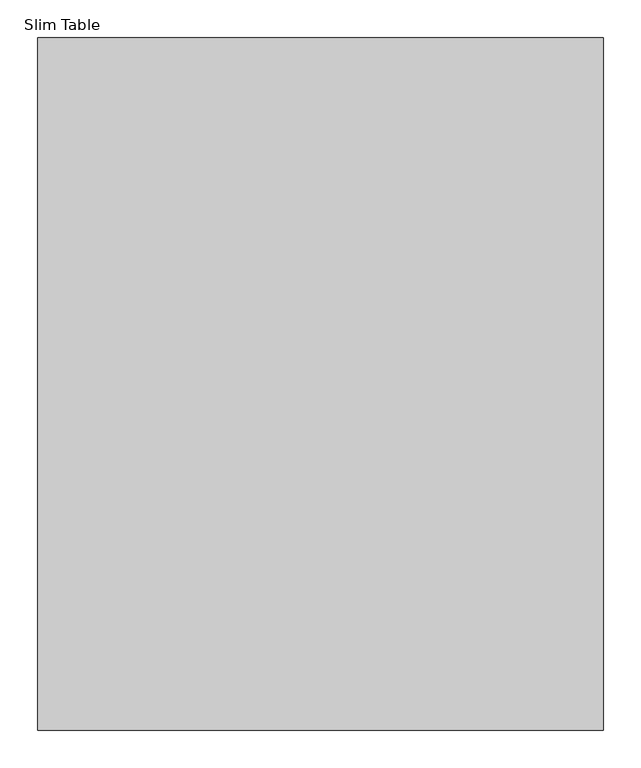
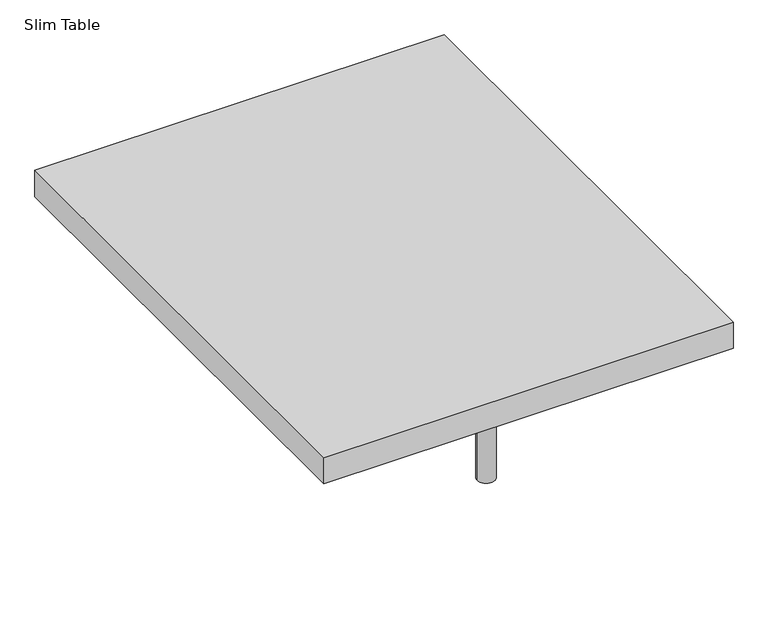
"""IFC4 building model written with IfcOpenShell, lengths in millimetres: furniture geometry, Coalesse_AM_Seating_LoungeChair_Sistema_LegBase_OneSeatConnector : Slim Table."""

import ifcopenshell
import ifcopenshell.guid

model = None  # the IFC model being written
_history = None  # IfcOwnerHistory: only IFC2X3 demands one
_inside = {}  # id of a spatial element -> (the spatial element, [elements in it])
_under = {}  # id of a project, library or spatial element -> (it, [spatial elements below it])
_declared = {}  # id of a project -> (the project, [libraries it declares])
_typed = {}  # id of a type object -> (the type object, [elements of that type])
_made_of = {}  # id of a material, layer set ... -> (it, [elements and type objects made of it])


def new_model(schema):
    """Start an empty IFC model of exactly this schema.

    Asked for "IFC4X3", IfcOpenShell would pick the latest addendum, in which some entities
    have other attributes; the version numbers below select the first issue.
    IFC2X3 requires an IfcOwnerHistory on every rooted entity: one is made here for all.
    """
    global model, _history
    if schema == "IFC4X3":
        model = ifcopenshell.file(schema_version=(4, 3, 0, 0))
    else:
        model = ifcopenshell.file(schema=schema)
    _inside.clear()
    _under.clear()
    _declared.clear()
    _typed.clear()
    _made_of.clear()
    _history = None
    if model.schema == "IFC2X3":
        org = make("IfcOrganization", Name="unknown")
        user = make(
            "IfcPersonAndOrganization",
            ThePerson=make("IfcPerson", FamilyName="unknown"),
            TheOrganization=org,
        )
        app = make(
            "IfcApplication",
            ApplicationDeveloper=org,
            Version="unknown",
            ApplicationFullName="unknown",
            ApplicationIdentifier="unknown",
        )
        _history = make(
            "IfcOwnerHistory",
            OwningUser=user,
            OwningApplication=app,
            ChangeAction="ADDED",
            CreationDate=0,
        )
    return model


def make(cls, **values):
    """One entity of the class cls with the attributes given. An attribute that is None is left unset."""
    return model.create_entity(
        cls, **{name: value for name, value in values.items() if value is not None}
    )


def rooted(cls, **values):
    """An entity with a GlobalId (a new one), such as an element, a storey or a relation."""
    return make(cls, GlobalId=ifcopenshell.guid.new(), OwnerHistory=_history, **values)


def si_unit(unit_type, name, prefix=None):
    """IfcSIUnit, for example si_unit("LENGTHUNIT", "METRE", prefix="MILLI")."""
    return make("IfcSIUnit", UnitType=unit_type, Prefix=prefix, Name=name)


def assignment(units):
    """IfcUnitAssignment: the units of a project."""
    return None if units is None else make("IfcUnitAssignment", Units=units)


def point(xyz):
    """IfcCartesianPoint."""
    return None if xyz is None else make("IfcCartesianPoint", Coordinates=xyz)


def direction(xyz):
    """IfcDirection."""
    return None if xyz is None else make("IfcDirection", DirectionRatios=xyz)


def frame(location, z_axis=None, x_axis=None):
    """IfcAxis2Placement3D, a coordinate frame: its origin and axes. An axis left out is left unset."""
    return make(
        "IfcAxis2Placement3D",
        Location=point(location),
        Axis=direction(z_axis),
        RefDirection=direction(x_axis),
    )


def frame_2d(location, x_axis=None):
    """IfcAxis2Placement2D, a coordinate frame in the plane: its origin and x axis."""
    return make(
        "IfcAxis2Placement2D", Location=point(location), RefDirection=direction(x_axis)
    )


def origin():
    """The frame at (0, 0, 0) with its axes left unset."""
    return frame((0.0, 0.0, 0.0))


def origin_with_axes():
    """The frame at (0, 0, 0) with the z axis (0, 0, 1) and the x axis (1, 0, 0) written out."""
    return frame((0.0, 0.0, 0.0), z_axis=(0.0, 0.0, 1.0), x_axis=(1.0, 0.0, 0.0))


def place(relative_to, where):
    """IfcLocalPlacement: puts the frame where relative to a parent placement (None: the world)."""
    return make(
        "IfcLocalPlacement", PlacementRelTo=relative_to, RelativePlacement=where
    )


def context(
    kind, dimensions, precision=None, world=None, true_north=None, identifier=None
):
    """IfcGeometricRepresentationContext, for example the 3D "Model" context."""
    return make(
        "IfcGeometricRepresentationContext",
        ContextIdentifier=identifier,
        ContextType=kind,
        CoordinateSpaceDimension=dimensions,
        Precision=precision,
        WorldCoordinateSystem=world,
        TrueNorth=true_north,
    )


def project(units=None, contexts=None):
    """IfcProject with its units and contexts."""
    return rooted(
        "IfcProject",
        Name="project",
        RepresentationContexts=contexts,
        UnitsInContext=assignment(units),
    )


def spatial(cls, under=None, at=None, **own):
    """A site, building, storey or space (cls), placed at a placement, below another one or the project."""
    s = rooted(cls, ObjectPlacement=at, **own)
    if under is not None:
        _under.setdefault(under.id(), (under, []))[1].append(s)
    return s


def polyline(points):
    """IfcPolyline through the points."""
    return make("IfcPolyline", Points=[point(p) for p in points])


def circle_curve(where, radius):
    """IfcCircle in the frame where."""
    return make("IfcCircle", Position=where, Radius=radius)


def trimmed(basis, trim1, trim2, sense, master):
    """IfcTrimmedCurve: the piece of a basis curve between two trims."""
    return make(
        "IfcTrimmedCurve",
        BasisCurve=basis,
        Trim1=trim1,
        Trim2=trim2,
        SenseAgreement=sense,
        MasterRepresentation=master,
    )


def segment(curve, same_sense, transition):
    """IfcCompositeCurveSegment."""
    return make(
        "IfcCompositeCurveSegment",
        Transition=transition,
        SameSense=same_sense,
        ParentCurve=curve,
    )


def composite_curve(segments, self_intersect=None):
    """IfcCompositeCurve: segments joined end to end."""
    return make("IfcCompositeCurve", Segments=segments, SelfIntersect=self_intersect)


def outline(outer, holes=None, kind="AREA"):
    """IfcArbitraryClosedProfileDef: a profile drawn as a closed curve; with holes, ...WithVoids."""
    if holes is None:
        return make("IfcArbitraryClosedProfileDef", ProfileType=kind, OuterCurve=outer)
    return make(
        "IfcArbitraryProfileDefWithVoids",
        ProfileType=kind,
        OuterCurve=outer,
        InnerCurves=holes,
    )


def extrude(swept, where, along, depth):
    """IfcExtrudedAreaSolid: the profile swept, set in the frame where, extruded along a direction by depth."""
    return make(
        "IfcExtrudedAreaSolid",
        SweptArea=swept,
        Position=where,
        ExtrudedDirection=direction(along),
        Depth=depth,
    )


def shape(context_of_items, identifier, shape_type, items):
    """IfcShapeRepresentation: the items that make up one representation, for example the "Body"."""
    return make(
        "IfcShapeRepresentation",
        ContextOfItems=context_of_items,
        RepresentationIdentifier=identifier,
        RepresentationType=shape_type,
        Items=items,
    )


def source(mapping_origin, context_of_items, identifier, shape_type, items):
    """IfcRepresentationMap: a shape defined once, which mapped items show again and again."""
    return make(
        "IfcRepresentationMap",
        MappingOrigin=mapping_origin,
        MappedRepresentation=shape(context_of_items, identifier, shape_type, items),
    )


def transform(
    local_origin,
    x_axis=None,
    y_axis=None,
    z_axis=None,
    scale=None,
    scale2=None,
    scale3=None,
    uniform=True,
):
    """IfcCartesianTransformationOperator3D, or its non-uniform kind. x_axis, y_axis, z_axis: its Axis1, 2, 3."""
    if uniform:
        return make(
            "IfcCartesianTransformationOperator3D",
            Axis1=direction(x_axis),
            Axis2=direction(y_axis),
            LocalOrigin=point(local_origin),
            Scale=scale,
            Axis3=direction(z_axis),
        )
    return make(
        "IfcCartesianTransformationOperator3DnonUniform",
        Axis1=direction(x_axis),
        Axis2=direction(y_axis),
        LocalOrigin=point(local_origin),
        Scale=scale,
        Axis3=direction(z_axis),
        Scale2=scale2,
        Scale3=scale3,
    )


def mapped(mapping_source, mapping_target):
    """IfcMappedItem: shows the shape of a source again, moved by a transform."""
    return make(
        "IfcMappedItem", MappingSource=mapping_source, MappingTarget=mapping_target
    )


def made_of(thing, what):
    """Note that an element or type object is made of a material, layer set ...; save() writes the relation."""
    if what is not None:
        _made_of.setdefault(what.id(), (what, []))[1].append(thing)
    return thing


def element(
    cls,
    number,
    at=None,
    inside=None,
    cuts=None,
    type_object=None,
    material=None,
    context=None,
    identifier="Body",
    shape_type=None,
    held_by="IfcProductDefinitionShape",
    body=None,
    shapes=None,
    **own,
):
    """One element of the class cls, such as IfcWall. Its Tag is "e" and its number.

    at: its placement. inside: the storey or other place that contains it. cuts: it is an
    opening in that element (IfcRelVoidsElement). A single representation is given by context,
    identifier, shape_type and body (its items); several are given by shapes. held_by: the class
    of the entity that holds the representations. save() writes the other relations.
    """
    e = rooted(cls, Tag="e%d" % number, ObjectPlacement=at, **own)
    if body is not None:
        shapes = [shape(context, identifier, shape_type, body)]
    if shapes is not None:
        e.Representation = make(held_by, Representations=shapes)
    if inside is not None:
        _inside.setdefault(inside.id(), (inside, []))[1].append(e)
    if cuts is not None:
        rooted(
            "IfcRelVoidsElement", RelatingBuildingElement=cuts, RelatedOpeningElement=e
        )
    if type_object is not None:
        _typed.setdefault(type_object.id(), (type_object, []))[1].append(e)
    return made_of(e, material)


def aggregate(whole, parts):
    """IfcRelAggregates: a whole, such as a stair, and the parts it consists of."""
    return rooted("IfcRelAggregates", RelatingObject=whole, RelatedObjects=parts)


def save(model, path):
    """Write the relations noted so far, then the file.

    IfcRelAggregates (storeys below a building ...), IfcRelContainedInSpatialStructure (elements
    in a storey), IfcRelDefinesByType, IfcRelAssociatesMaterial and IfcRelDeclares: one each for
    every whole, place, type object, material and project.
    """
    for whole, parts in _under.values():
        aggregate(whole, parts)
    for where, things in _inside.values():
        rooted(
            "IfcRelContainedInSpatialStructure",
            RelatedElements=things,
            RelatingStructure=where,
        )
    for kind, things in _typed.values():
        rooted("IfcRelDefinesByType", RelatedObjects=things, RelatingType=kind)
    for what, things in _made_of.values():
        rooted("IfcRelAssociatesMaterial", RelatedObjects=things, RelatingMaterial=what)
    for by, libraries in _declared.values():
        rooted("IfcRelDeclares", RelatingContext=by, RelatedDefinitions=libraries)
    model.write(path)


def slim_table_b8920834(model_context):
    return source(origin(), model_context, "Body", "SweptSolid", [
        extrude(outline(composite_curve([segment(trimmed(circle_curve(frame_2d((0.0, 335.9943389)), 6.096), [point((-6.096, 335.9943389))], [point((6.096, 335.9943389))], False, "CARTESIAN"), True, "CONTINUOUS"), segment(trimmed(circle_curve(frame_2d((0.0, 335.9943389)), 6.096), [point((6.096, 335.9943389))], [point((-6.096, 335.9943389))], False, "CARTESIAN"), True, "CONTINUOUS")], self_intersect=False)), origin_with_axes(), (0.0, 0.0, 1.0), 4.3662291),
        extrude(outline(composite_curve([segment(trimmed(circle_curve(frame_2d((0.0, -327.2630889)), 6.096), [point((-6.096, -327.2630889))], [point((6.096, -327.2630889))], False, "CARTESIAN"), True, "CONTINUOUS"), segment(trimmed(circle_curve(frame_2d((0.0, -327.2630889)), 6.096), [point((6.096, -327.2630889))], [point((-6.096, -327.2630889))], False, "CARTESIAN"), True, "CONTINUOUS")], self_intersect=False)), origin_with_axes(), (0.0, 0.0, 1.0), 4.3662291),
        extrude(outline(composite_curve([segment(trimmed(circle_curve(frame_2d((157.0399209, -9.5318523)), 3.048), [point((157.0399209, -12.5798523))], [point((153.9919209, -9.5318523))], False, "CARTESIAN"), True, "CONTINUOUS"), segment(polyline([(153.9919209, -9.5318523), (153.9919209, 9.7252509)]), True, "CONTINUOUS"), segment(trimmed(circle_curve(frame_2d((157.1249936, 9.7252509)), 3.1330728), [point((153.9919209, 9.7252509))], [point((157.1249936, 12.8583237))], False, "CARTESIAN"), True, "CONTINUOUS"), segment(polyline([(157.1249936, 12.8583237), (201.7356243, 12.8583237)]), True, "CONTINUOUS"), segment(trimmed(circle_curve(frame_2d((201.7356243, 9.8103237)), 3.048), [point((201.7356243, 12.8583237))], [point((204.7836243, 9.8103237))], False, "CARTESIAN"), True, "CONTINUOUS"), segment(polyline([(204.7836243, 9.8103237), (204.7836243, -9.5318523)]), True, "CONTINUOUS"), segment(trimmed(circle_curve(frame_2d((201.7356243, -9.5318523)), 3.048), [point((204.7836243, -9.5318523))], [point((201.7356243, -12.5798523))], False, "CARTESIAN"), True, "CONTINUOUS"), segment(polyline([(201.7356243, -12.5798523), (157.0399209, -12.5798523)]), True, "CONTINUOUS")], self_intersect=False)), frame((0.0, 222.3519802, 0.0), z_axis=(0.0, 1.0, 0.0), x_axis=(0.0, 0.0, 1.0)), (0.0, 0.0, 1.0), 92.6273161),
        extrude(outline(composite_curve([segment(trimmed(circle_curve(frame_2d((157.0399209, -9.5318523)), 3.048), [point((157.0399209, -12.5798523))], [point((153.9919209, -9.5318523))], False, "CARTESIAN"), True, "CONTINUOUS"), segment(polyline([(153.9919209, -9.5318523), (153.9919209, 9.7252509)]), True, "CONTINUOUS"), segment(trimmed(circle_curve(frame_2d((157.1249936, 9.7252509)), 3.1330728), [point((153.9919209, 9.7252509))], [point((157.1249936, 12.8583237))], False, "CARTESIAN"), True, "CONTINUOUS"), segment(polyline([(157.1249936, 12.8583237), (201.7356243, 12.8583237)]), True, "CONTINUOUS"), segment(trimmed(circle_curve(frame_2d((201.7356243, 9.8103237)), 3.048), [point((201.7356243, 12.8583237))], [point((204.7836243, 9.8103237))], False, "CARTESIAN"), True, "CONTINUOUS"), segment(polyline([(204.7836243, 9.8103237), (204.7836243, -9.5318523)]), True, "CONTINUOUS"), segment(trimmed(circle_curve(frame_2d((201.7356243, -9.5318523)), 3.048), [point((204.7836243, -9.5318523))], [point((201.7356243, -12.5798523))], False, "CARTESIAN"), True, "CONTINUOUS"), segment(polyline([(201.7356243, -12.5798523), (157.0399209, -12.5798523)]), True, "CONTINUOUS")], self_intersect=False)), frame((0.0, -314.9792963, 0.0), z_axis=(0.0, 1.0, 0.0), x_axis=(0.0, 0.0, 1.0)), (0.0, 0.0, 1.0), 92.6273161),
        extrude(outline(composite_curve([segment(polyline([(179.3836606, 22.6505283), (179.3836606, -22.0535686)]), True, "CONTINUOUS"), segment(trimmed(circle_curve(frame_2d((176.3356606, -22.0535686)), 3.048), [point((179.3836606, -22.0535686))], [point((176.3356606, -25.1015686))], False, "CARTESIAN"), True, "CONTINUOUS"), segment(polyline([(176.3356606, -25.1015686), (157.056462, -25.1015686)]), True, "CONTINUOUS"), segment(trimmed(circle_curve(frame_2d((157.056462, -22.0370274)), 3.0645412), [point((157.056462, -25.1015686))], [point((153.9919209, -22.0370274))], False, "CARTESIAN"), True, "CONTINUOUS"), segment(polyline([(153.9919209, -22.0370274), (153.9919209, 22.6505283)]), True, "CONTINUOUS"), segment(trimmed(circle_curve(frame_2d((157.0399209, 22.6505283)), 3.048), [point((153.9919209, 22.6505283))], [point((157.0399209, 25.6985283))], False, "CARTESIAN"), True, "CONTINUOUS"), segment(polyline([(157.0399209, 25.6985283), (176.3356606, 25.6985283)]), True, "CONTINUOUS"), segment(trimmed(circle_curve(frame_2d((176.3356606, 22.6505283)), 3.048), [point((176.3356606, 25.6985283))], [point((179.3836606, 22.6505283))], False, "CARTESIAN"), True, "CONTINUOUS")], self_intersect=False)), frame((0.0, -222.3519802, 0.0), z_axis=(0.0, 1.0, 0.0), x_axis=(0.0, 0.0, 1.0)), (0.0, 0.0, 1.0), 444.7039604),
        extrude(outline(composite_curve([segment(trimmed(circle_curve(frame_2d((0.0, 332.3095741)), 16.51), [point((-16.51, 332.3095741))], [point((16.51, 332.3095741))], False, "CARTESIAN"), True, "CONTINUOUS"), segment(trimmed(circle_curve(frame_2d((0.0, 332.3095741)), 16.51), [point((16.51, 332.3095741))], [point((-16.51, 332.3095741))], False, "CARTESIAN"), True, "CONTINUOUS")], self_intersect=False)), frame((0.0, 0.0, 4.3662291), z_axis=(0.0, 0.0, 1.0), x_axis=(1.0, 0.0, 0.0)), (0.0, 0.0, 1.0), 200.1037709),
        extrude(outline(composite_curve([segment(trimmed(circle_curve(frame_2d((0.396875, -327.5470741)), 16.51), [point((-16.113125, -327.5470741))], [point((16.906875, -327.5470741))], False, "CARTESIAN"), True, "CONTINUOUS"), segment(trimmed(circle_curve(frame_2d((0.396875, -327.5470741)), 16.51), [point((16.906875, -327.5470741))], [point((-16.113125, -327.5470741))], False, "CARTESIAN"), True, "CONTINUOUS")], self_intersect=False)), frame((0.0, 0.0, 4.3662291), z_axis=(0.0, 0.0, 1.0), x_axis=(1.0, 0.0, 0.0)), (0.0, 0.0, 1.0), 200.1037709),
        extrude(outline(polyline([(377.4828388, 459.4795619), (377.4828388, -461.2704381), (-374.8034773, -461.2704381), (-374.8034773, 459.4795619), (377.4828388, 459.4795619)])), frame((0.0, 0.0, 204.47), z_axis=(0.0, 0.0, 1.0), x_axis=(1.0, 0.0, 0.0)), (0.0, 0.0, 1.0), 51.0294654),
    ])


if __name__ == "__main__":
    model = new_model("IFC4")
    model_context = context("Model", 3, world=origin())
    ifc_project = project(units=[si_unit("LENGTHUNIT", "METRE", prefix="MILLI")], contexts=[model_context])
    site = spatial("IfcSite", under=ifc_project)
    building = spatial("IfcBuilding", under=site)
    placement = place(None, origin())
    slim_table_shape = slim_table_b8920834(model_context)
    element("IfcFurniture", 1, ObjectType="Coalesse_AM_Seating_LoungeChair_Sistema_LegBase_OneSeatConnector : Slim Table", at=placement, inside=building, context=model_context, shape_type="MappedRepresentation", body=[
        mapped(slim_table_shape, transform((0.0, 0.0, 0.0), x_axis=(1.0, 0.0, 0.0), y_axis=(0.0, 1.0, 0.0), z_axis=(0.0, 0.0, 1.0))),
    ])
    save(model, "model.ifc")
